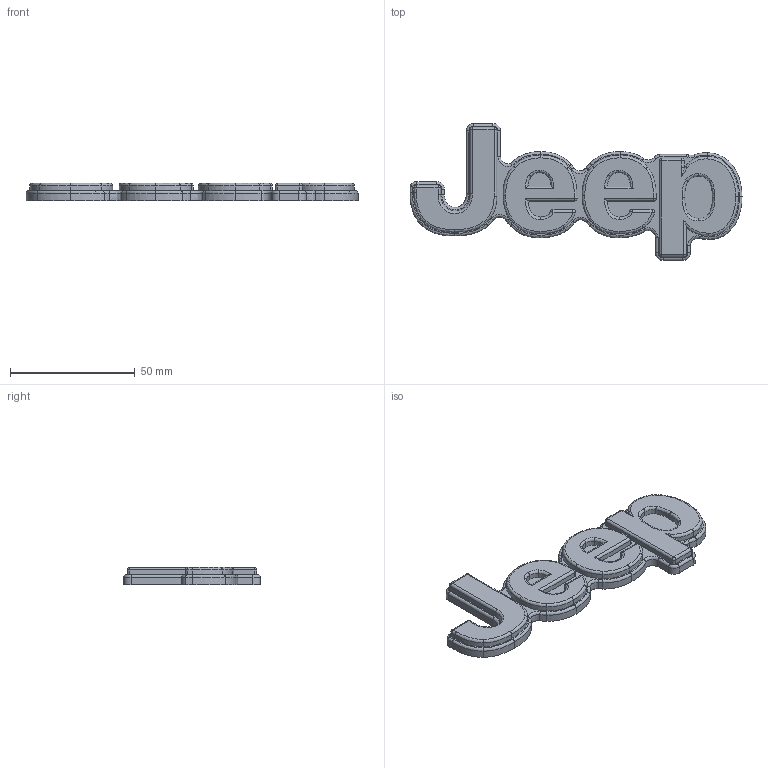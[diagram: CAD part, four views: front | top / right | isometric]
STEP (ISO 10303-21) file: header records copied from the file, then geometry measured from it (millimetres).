
FILE_DESCRIPTION(/* description */ (''),/* implementation_level */ '2;1');
FILE_NAME(/* name */ '/Users/omarshams/Downloads/New Jeep logo v1.step',/* time_stamp */ '2019-07-15T03:11:22+04:00',/* author */ (''),/* organization */ (''),/* preprocessor_version */ 'ST-DEVELOPER v18',/* originating_system */ 'Autodesk Translation Framework v8.2.0.1029',/* authorisation */ '');
FILE_SCHEMA (('AUTOMOTIVE_DESIGN { 1 0 10303 214 3 1 1 }'));
Length unit declared in the file: millimetre
Products named in the file (1): New Jeep logo
Bounding box: 133.16 x 54.93 x 7 mm (x, y, z)
Volume: 24177 mm3; surface area: 11094.5 mm2
Topology: 1 solids, 1 shells, 261 faces, 620 edges, 368 vertices
Faces by surface type: bspline 163, cylinder 41, plane 35, sphere 14, torus 8
Entity records: 11697 total; most frequent: CARTESIAN_POINT 6730, ORIENTED_EDGE 1240, DIRECTION 672, EDGE_CURVE 620, VERTEX_POINT 368, B_SPLINE_CURVE_WITH_KNOTS 270, EDGE_LOOP 268, FACE_OUTER_BOUND 261
